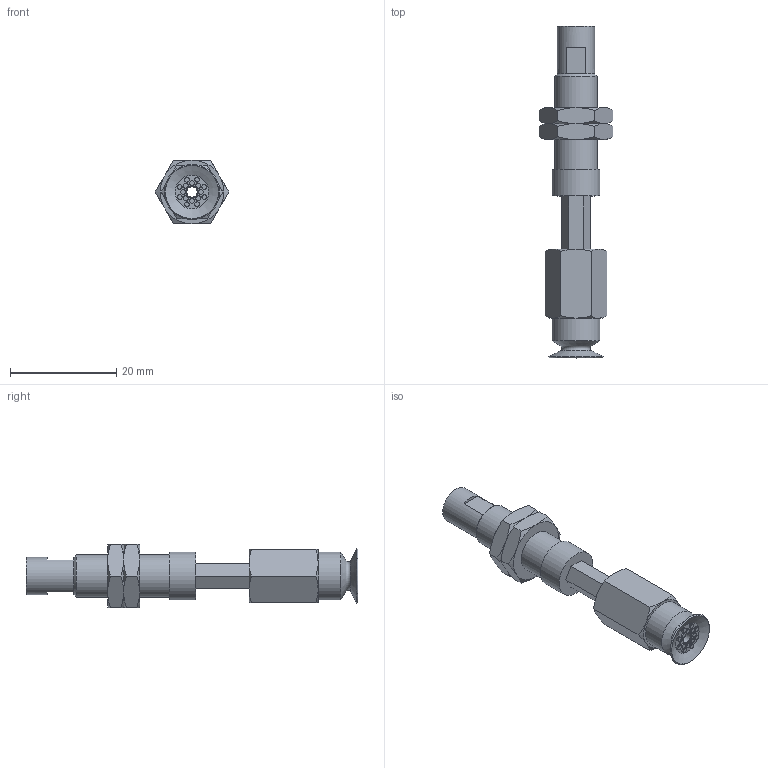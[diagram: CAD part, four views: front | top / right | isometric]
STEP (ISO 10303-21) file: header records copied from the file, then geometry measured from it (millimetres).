
FILE_DESCRIPTION(('STEP AP203'),'1');
FILE_NAME('.stp','2025-08-12T07:51:18',(' '),(' '),'Spatial InterOp 3D',' ',' ');
FILE_SCHEMA(('CONFIG_CONTROL_DESIGN'));
Length unit declared in the file: millimetre
Products named in the file (6): BNABPATH-10A-10-※; NAPATH-10A-10--M; NAPATH-10A-10--F; Nut-10A-S; BPAG-10A-※; ADAPTER
Assembly tree (6 placements, depth 2):
  BNABPATH-10A-10-※
    NAPATH-10A-10--M
    NAPATH-10A-10--F
    Nut-10A-S  x2
    BPAG-10A-※
    ADAPTER
Bounding box: 13.86 x 62.5 x 12 mm (x, y, z)
Volume: 3494.6 mm3; surface area: 4146.5 mm2
Topology: 6 solids, 6 shells, 155 faces, 312 edges, 192 vertices
Faces by surface type: plane 69, cone 46, cylinder 30, torus 10
Full cylindrical faces by diameter (mm): 0.9 x16, 2 x3, 4 x2, 4.134 x1, 6 x2, 7 x1, 7.188 x2, 8 x1, 9 x2
Entity records: 3620 total; most frequent: CARTESIAN_POINT 793, DIRECTION 542, ORIENTED_EDGE 418, AXIS2_PLACEMENT_3D 242, EDGE_LOOP 212, EDGE_CURVE 209, FACE_OUTER_BOUND 171, VERTEX_POINT 157
